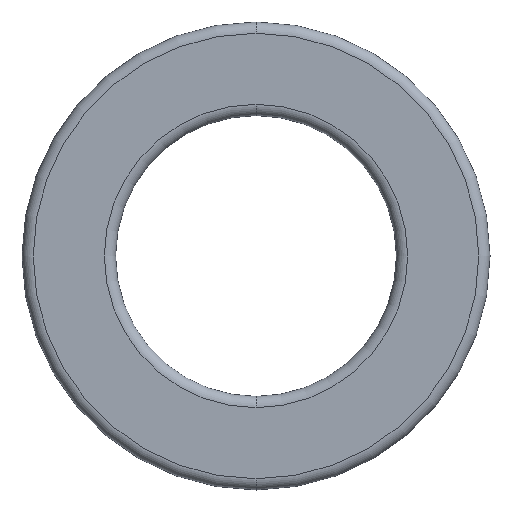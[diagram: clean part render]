
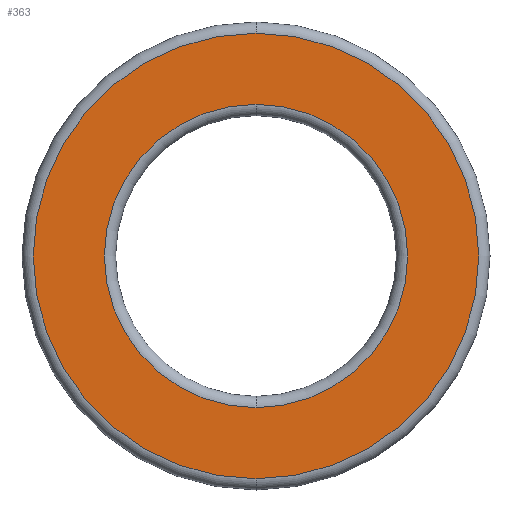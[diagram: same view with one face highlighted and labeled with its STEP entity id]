
A CAD part, front view. The second image highlights one B-rep face of the part: STEP entity #363.
In plain terms, the highlighted planar face has unit normal (0, -1, 0).
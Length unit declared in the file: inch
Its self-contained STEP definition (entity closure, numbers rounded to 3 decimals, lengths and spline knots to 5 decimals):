
#7 = AXIS2_PLACEMENT_3D ( 'NONE', #336, #139, #247 ) ;
#9 = FACE_BOUND ( 'NONE', #41, .T. ) ;
#31 = CARTESIAN_POINT ( 'NONE',  ( 0., -0.187, 0. ) ) ;
#41 = EDGE_LOOP ( 'NONE', ( #419, #217 ) ) ;
#45 = DIRECTION ( 'NONE',  ( 0., 0., -1. ) ) ;
#49 = ORIENTED_EDGE ( 'NONE', *, *, #396, .T. ) ;
#52 = EDGE_CURVE ( 'NONE', #157, #340, #375, .T. ) ;
#66 = CARTESIAN_POINT ( 'NONE',  ( 0., -0.187, 0. ) ) ;
#71 = DIRECTION ( 'NONE',  ( 0., -1., 0. ) ) ;
#122 = DIRECTION ( 'NONE',  ( 0., -1., 0. ) ) ;
#139 = DIRECTION ( 'NONE',  ( 0., -1., 0. ) ) ;
#142 = CIRCLE ( 'NONE', #7, 0.595 ) ;
#143 = AXIS2_PLACEMENT_3D ( 'NONE', #31, #397, #428 ) ;
#155 = FACE_OUTER_BOUND ( 'NONE', #210, .T. ) ;
#157 = VERTEX_POINT ( 'NONE', #286 ) ;
#168 = EDGE_CURVE ( 'NONE', #340, #157, #290, .T. ) ;
#177 = ORIENTED_EDGE ( 'NONE', *, *, #221, .T. ) ;
#178 = AXIS2_PLACEMENT_3D ( 'NONE', #222, #421, #45 ) ;
#190 = AXIS2_PLACEMENT_3D ( 'NONE', #66, #71, #276 ) ;
#196 = AXIS2_PLACEMENT_3D ( 'NONE', #430, #122, #362 ) ;
#206 = CARTESIAN_POINT ( 'NONE',  ( 0., -0.187, 0.405 ) ) ;
#210 = EDGE_LOOP ( 'NONE', ( #177, #49 ) ) ;
#217 = ORIENTED_EDGE ( 'NONE', *, *, #168, .T. ) ;
#221 = EDGE_CURVE ( 'NONE', #244, #420, #317, .T. ) ;
#222 = CARTESIAN_POINT ( 'NONE',  ( 0., -0.187, 0. ) ) ;
#236 = CARTESIAN_POINT ( 'NONE',  ( 0., -0.187, -0.595 ) ) ;
#244 = VERTEX_POINT ( 'NONE', #236 ) ;
#247 = DIRECTION ( 'NONE',  ( 0., 0., -1. ) ) ;
#267 = PLANE ( 'NONE',  #190 ) ;
#276 = DIRECTION ( 'NONE',  ( 0., 0., -1. ) ) ;
#286 = CARTESIAN_POINT ( 'NONE',  ( 0., -0.187, -0.405 ) ) ;
#290 = CIRCLE ( 'NONE', #143, 0.405 ) ;
#317 = CIRCLE ( 'NONE', #196, 0.595 ) ;
#336 = CARTESIAN_POINT ( 'NONE',  ( 0., -0.187, 0. ) ) ;
#340 = VERTEX_POINT ( 'NONE', #206 ) ;
#343 = CARTESIAN_POINT ( 'NONE',  ( 0., -0.187, 0.595 ) ) ;
#362 = DIRECTION ( 'NONE',  ( 0., 0., -1. ) ) ;
#363 = ADVANCED_FACE ( 'NONE', ( #155, #9 ), #267, .T. ) ;
#375 = CIRCLE ( 'NONE', #178, 0.405 ) ;
#396 = EDGE_CURVE ( 'NONE', #420, #244, #142, .T. ) ;
#397 = DIRECTION ( 'NONE',  ( 0., 1., 0. ) ) ;
#419 = ORIENTED_EDGE ( 'NONE', *, *, #52, .T. ) ;
#420 = VERTEX_POINT ( 'NONE', #343 ) ;
#421 = DIRECTION ( 'NONE',  ( 0., 1., 0. ) ) ;
#428 = DIRECTION ( 'NONE',  ( 0., 0., -1. ) ) ;
#430 = CARTESIAN_POINT ( 'NONE',  ( 0., -0.187, 0. ) ) ;
